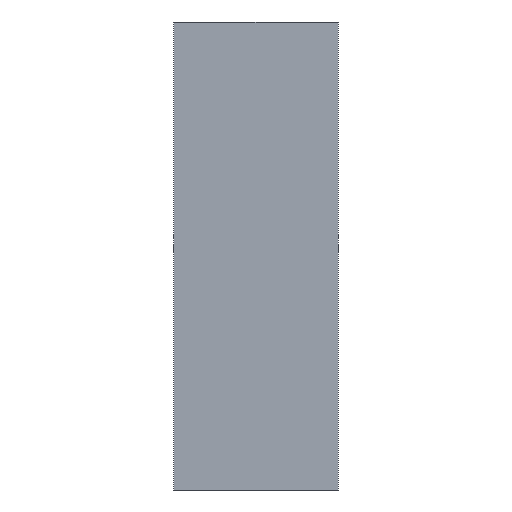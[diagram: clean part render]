
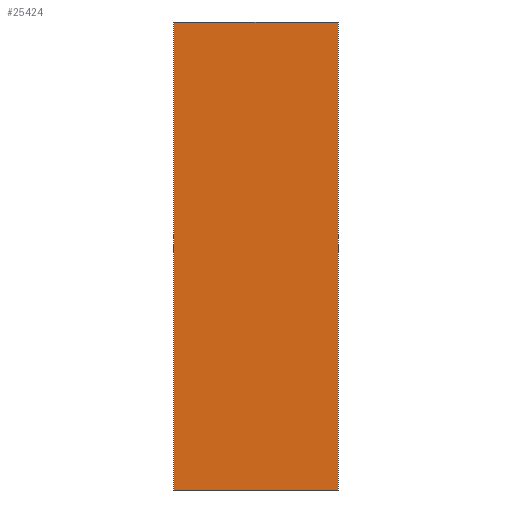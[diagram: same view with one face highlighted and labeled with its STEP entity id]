
A CAD part, front view. The second image highlights one B-rep face of the part: STEP entity #25424.
In plain terms, the highlighted free-form (B-spline) face has degree [1, 1] with [2, 2] control points.
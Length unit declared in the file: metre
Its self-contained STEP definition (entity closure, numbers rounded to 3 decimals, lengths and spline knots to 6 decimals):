
#1545 = EDGE_CURVE ( 'NONE', #26577, #5574, #2947, .T. ) ;
#1564 = CARTESIAN_POINT ( 'NONE',  ( 2.7432, 0.0127, -0.114786 ) ) ;
#1903 = CARTESIAN_POINT ( 'NONE',  ( 0., 0.0127, -0.114786 ) ) ;
#2947 = B_SPLINE_CURVE_WITH_KNOTS ( 'NONE', 1,
 ( #15489, #26885 ),
 .UNSPECIFIED., .F., .F.,
 ( 2, 2 ),
 ( 0., 1. ),
 .UNSPECIFIED. ) ;
#4564 = EDGE_CURVE ( 'NONE', #12377, #19508, #21033, .T. ) ;
#5574 = VERTEX_POINT ( 'NONE', #11938 ) ;
#5838 = CARTESIAN_POINT ( 'NONE',  ( 2.7432, 0.0127, -1.079986 ) ) ;
#7633 = B_SPLINE_CURVE_WITH_KNOTS ( 'NONE', 1,
 ( #1903, #21195 ),
 .UNSPECIFIED., .F., .F.,
 ( 2, 2 ),
 ( 0., 1. ),
 .UNSPECIFIED. ) ;
#8925 = CARTESIAN_POINT ( 'NONE',  ( 0., 0.0127, -0.114786 ) ) ;
#9107 = ORIENTED_EDGE ( 'NONE', *, *, #11099, .F. ) ;
#9439 = CARTESIAN_POINT ( 'NONE',  ( 2.7432, 0.0127, -0.114786 ) ) ;
#10885 = B_SPLINE_SURFACE_WITH_KNOTS ( 'NONE', 1, 1, ( 
 ( #5838, #9439 ),
 ( #12643, #18461 ) ),
 .UNSPECIFIED., .F., .F., .F.,
 ( 2, 2 ),
 ( 2, 2 ),
 ( 0., 1. ),
 ( 0., 1. ),
 .UNSPECIFIED. ) ;
#11099 = EDGE_CURVE ( 'NONE', #19508, #26577, #7633, .T. ) ;
#11938 = CARTESIAN_POINT ( 'NONE',  ( 2.7432, 0.0127, -1.079986 ) ) ;
#11941 = ORIENTED_EDGE ( 'NONE', *, *, #1545, .F. ) ;
#12377 = VERTEX_POINT ( 'NONE', #27563 ) ;
#12643 = CARTESIAN_POINT ( 'NONE',  ( 0., 0.0127, -1.079986 ) ) ;
#14611 = ORIENTED_EDGE ( 'NONE', *, *, #4564, .F. ) ;
#15471 = CARTESIAN_POINT ( 'NONE',  ( 2.7432, 0.0127, -1.079986 ) ) ;
#15489 = CARTESIAN_POINT ( 'NONE',  ( 2.7432, 0.0127, -0.114786 ) ) ;
#17178 = CARTESIAN_POINT ( 'NONE',  ( 0., 0.0127, -1.079986 ) ) ;
#18122 = CARTESIAN_POINT ( 'NONE',  ( 0., 0.0127, -1.079986 ) ) ;
#18461 = CARTESIAN_POINT ( 'NONE',  ( 0., 0.0127, -0.114786 ) ) ;
#19508 = VERTEX_POINT ( 'NONE', #8925 ) ;
#19514 = ORIENTED_EDGE ( 'NONE', *, *, #19946, .F. ) ;
#19860 = CARTESIAN_POINT ( 'NONE',  ( 0., 0.0127, -0.114786 ) ) ;
#19946 = EDGE_CURVE ( 'NONE', #5574, #12377, #24127, .T. ) ;
#20708 = FACE_OUTER_BOUND ( 'NONE', #26354, .T. ) ;
#21033 = B_SPLINE_CURVE_WITH_KNOTS ( 'NONE', 1,
 ( #17178, #19860 ),
 .UNSPECIFIED., .F., .F.,
 ( 2, 2 ),
 ( 0., 1. ),
 .UNSPECIFIED. ) ;
#21195 = CARTESIAN_POINT ( 'NONE',  ( 2.7432, 0.0127, -0.114786 ) ) ;
#24127 = B_SPLINE_CURVE_WITH_KNOTS ( 'NONE', 1,
 ( #15471, #18122 ),
 .UNSPECIFIED., .F., .F.,
 ( 2, 2 ),
 ( 0., 1. ),
 .UNSPECIFIED. ) ;
#25424 = ADVANCED_FACE ( 'NONE', ( #20708 ), #10885, .F. ) ;
#26354 = EDGE_LOOP ( 'NONE', ( #19514, #11941, #9107, #14611 ) ) ;
#26577 = VERTEX_POINT ( 'NONE', #1564 ) ;
#26885 = CARTESIAN_POINT ( 'NONE',  ( 2.7432, 0.0127, -1.079986 ) ) ;
#27563 = CARTESIAN_POINT ( 'NONE',  ( 0., 0.0127, -1.079986 ) ) ;
